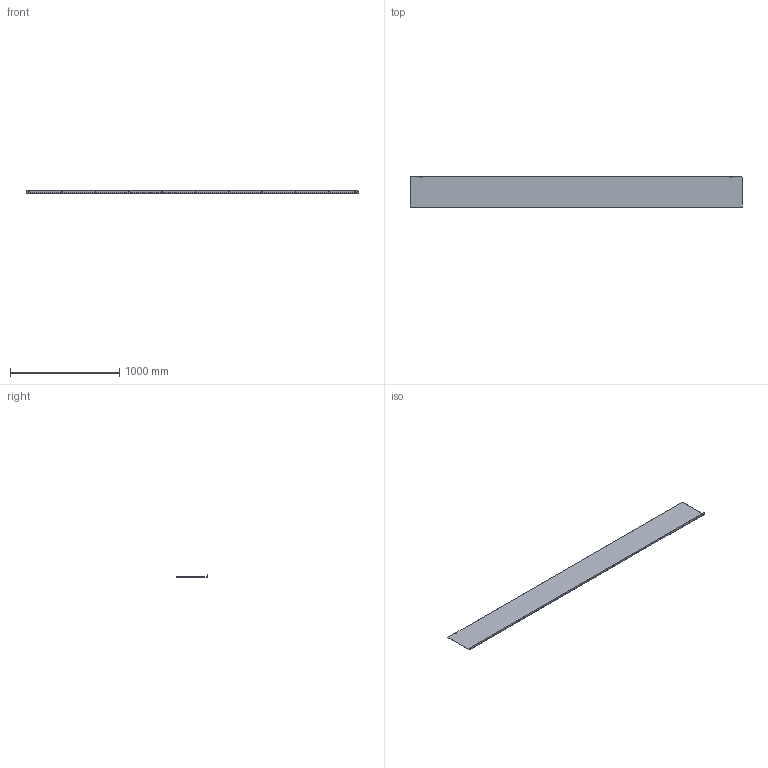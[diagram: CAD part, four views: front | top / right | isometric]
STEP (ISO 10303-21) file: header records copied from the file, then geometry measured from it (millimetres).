
FILE_DESCRIPTION((''),'2;1');
FILE_NAME('C:\Vault_Workspace\Inventor_Dwg\Inv-1\1100BA\WEBSITE\1100BA12120.stp','2015-02-02T15:19:00',('MichaelA'),(''),'Autodesk Inventor 2012','Autodesk Inventor 2012','');
FILE_SCHEMA(('AUTOMOTIVE_DESIGN { 1 0 10303 214 1 1 1 1 }'));
Length unit declared in the file: inch
Products named in the file (1): 1100BA-MASTER
Bounding box: 3035.3 x 279.4 x 19.05 mm (x, y, z)
Volume: 1256222.5 mm3; surface area: 1808142.6 mm2
Topology: 1 solids, 1 shells, 31 faces, 79 edges, 50 vertices
Faces by surface type: cylinder 19, plane 12
Full cylindrical faces by diameter (mm): 4.496 x2, 7.137 x11
Entity records: 962 total; most frequent: DIRECTION 168, CARTESIAN_POINT 148, ORIENTED_EDGE 132, AXIS2_PLACEMENT_3D 70, EDGE_LOOP 70, EDGE_CURVE 66, VERTEX_POINT 50, FACE_BOUND 39
